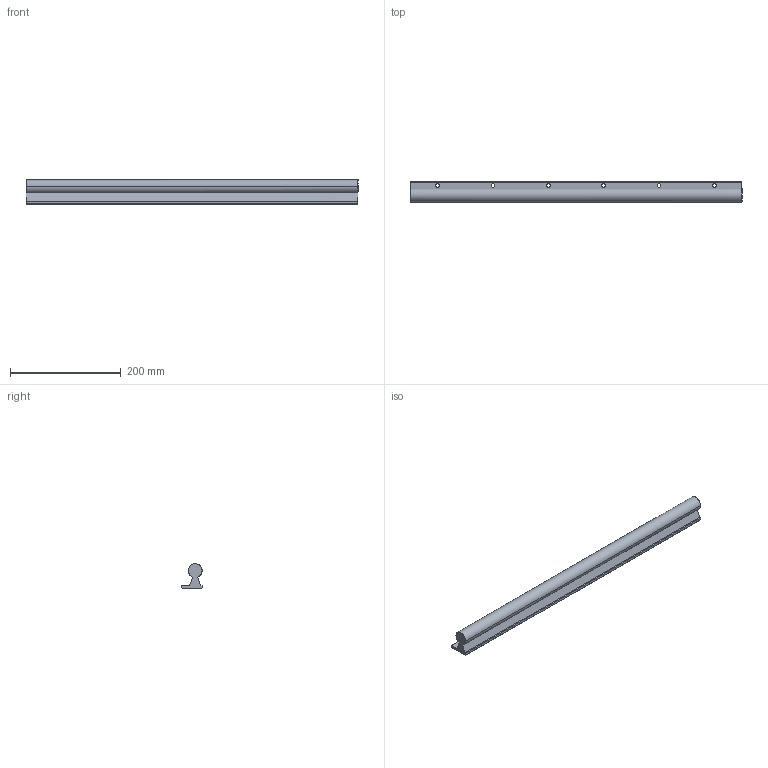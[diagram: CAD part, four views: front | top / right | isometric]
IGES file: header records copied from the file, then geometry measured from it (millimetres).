
Global section: file name: No Iges File Name specified; native system: AutoDesk Inventor R10; preprocessor: AutoDesk Inventor Iges Exporter R10; author: No Author specified; organization: No Organization specified; date: 20101221.090512; units: millimetre
Bounding box: 600 x 36.5 x 44.5 mm (x, y, z)
Surface area: 102823.5 mm2 (no closed solid volume)
Topology: 0 solids, 0 shells, 126 faces, 820 edges, 808 vertices
Faces by surface type: bspline 126
